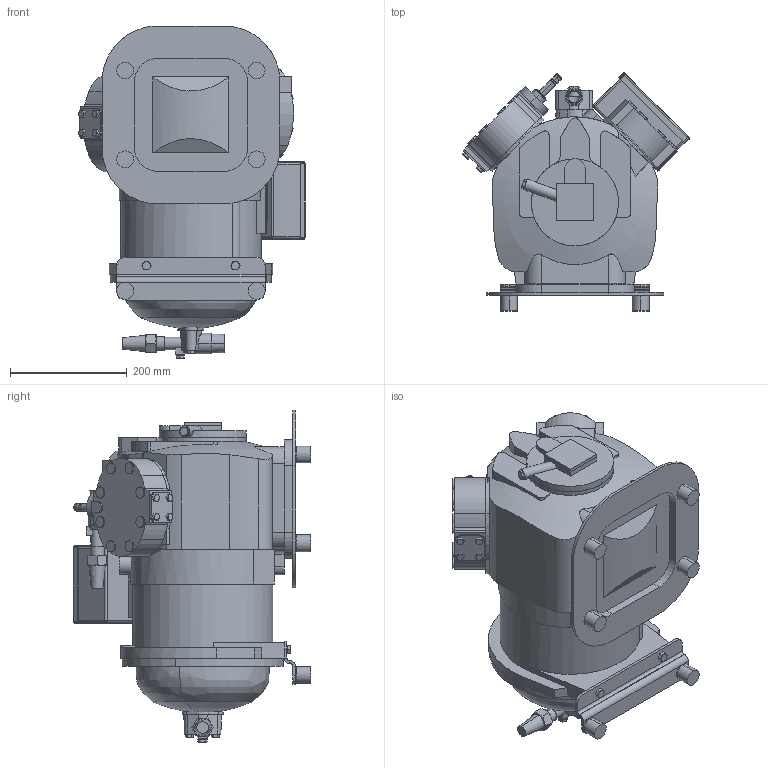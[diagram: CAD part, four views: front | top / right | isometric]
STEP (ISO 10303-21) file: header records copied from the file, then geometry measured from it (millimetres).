
FILE_DESCRIPTION((''),'2;1');
FILE_NAME('06D41ES9_SV','2004-01-23T',('girish.c'),(''),'PRO/ENGINEER BY PARAMETRIC TECHNOLOGY CORPORATION, 2003161','PRO/ENGINEER BY PARAMETRIC TECHNOLOGY CORPORATION, 2003161','');
FILE_SCHEMA(('CONFIG_CONTROL_DESIGN','SHAPE_APPEARANCE_LAYERS_GROUPS'));
Length unit declared in the file: inch
Products named in the file (1): 06D41ES9_SV
Bounding box: 388.9 x 408.03 x 569.21 mm (x, y, z)
Surface area: 1277043.7 mm2 (no closed solid volume)
Topology: 0 solids, 40 shells, 732 faces, 1975 edges, 1323 vertices
Faces by surface type: plane 363, cylinder 255, cone 91, bspline 16, torus 4, sphere 3
Entity records: 32933 total; most frequent: CARTESIAN_POINT 6703, DIRECTION 3864, ORIENTED_EDGE 3616, PRESENTATION_STYLE_ASSIGNMENT 2207, STYLED_ITEM 2009, CURVE_STYLE 1975, EDGE_CURVE 1975, AXIS2_PLACEMENT_3D 1428
